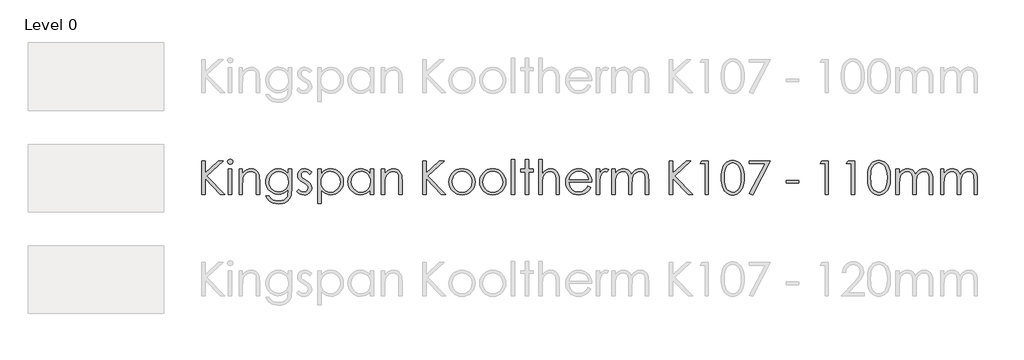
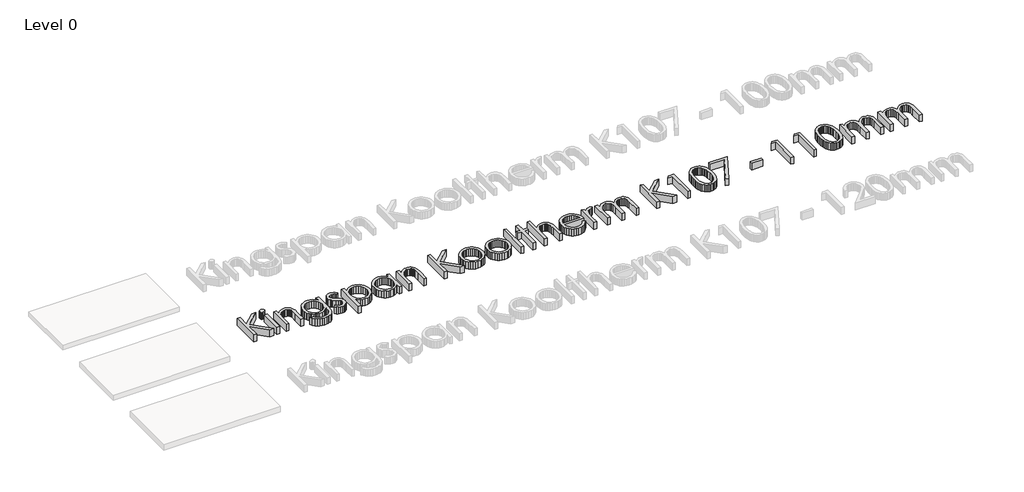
# One storey, part 4 of 13: 1 proxy.
"""IFC4 building model written with IfcOpenShell, lengths in millimetres."""

import ifcopenshell
import ifcopenshell.guid

model = None  # the IFC model being written
_history = None  # IfcOwnerHistory: only IFC2X3 demands one
_inside = {}  # id of a spatial element -> (the spatial element, [elements in it])
_under = {}  # id of a project, library or spatial element -> (it, [spatial elements below it])
_declared = {}  # id of a project -> (the project, [libraries it declares])
_typed = {}  # id of a type object -> (the type object, [elements of that type])
_made_of = {}  # id of a material, layer set ... -> (it, [elements and type objects made of it])


def new_model(schema):
    """Start an empty IFC model of exactly this schema.

    Asked for "IFC4X3", IfcOpenShell would pick the latest addendum, in which some entities
    have other attributes; the version numbers below select the first issue.
    IFC2X3 requires an IfcOwnerHistory on every rooted entity: one is made here for all.
    """
    global model, _history
    if schema == "IFC4X3":
        model = ifcopenshell.file(schema_version=(4, 3, 0, 0))
    else:
        model = ifcopenshell.file(schema=schema)
    _inside.clear()
    _under.clear()
    _declared.clear()
    _typed.clear()
    _made_of.clear()
    _history = None
    if model.schema == "IFC2X3":
        org = make("IfcOrganization", Name="unknown")
        user = make(
            "IfcPersonAndOrganization",
            ThePerson=make("IfcPerson", FamilyName="unknown"),
            TheOrganization=org,
        )
        app = make(
            "IfcApplication",
            ApplicationDeveloper=org,
            Version="unknown",
            ApplicationFullName="unknown",
            ApplicationIdentifier="unknown",
        )
        _history = make(
            "IfcOwnerHistory",
            OwningUser=user,
            OwningApplication=app,
            ChangeAction="ADDED",
            CreationDate=0,
        )
    return model


def make(cls, **values):
    """One entity of the class cls with the attributes given. An attribute that is None is left unset."""
    return model.create_entity(
        cls, **{name: value for name, value in values.items() if value is not None}
    )


def rooted(cls, **values):
    """An entity with a GlobalId (a new one), such as an element, a storey or a relation."""
    return make(cls, GlobalId=ifcopenshell.guid.new(), OwnerHistory=_history, **values)


def si_unit(unit_type, name, prefix=None):
    """IfcSIUnit, for example si_unit("LENGTHUNIT", "METRE", prefix="MILLI")."""
    return make("IfcSIUnit", UnitType=unit_type, Prefix=prefix, Name=name)


def assignment(units):
    """IfcUnitAssignment: the units of a project."""
    return None if units is None else make("IfcUnitAssignment", Units=units)


def point(xyz):
    """IfcCartesianPoint."""
    return None if xyz is None else make("IfcCartesianPoint", Coordinates=xyz)


def direction(xyz):
    """IfcDirection."""
    return None if xyz is None else make("IfcDirection", DirectionRatios=xyz)


def frame(location, z_axis=None, x_axis=None):
    """IfcAxis2Placement3D, a coordinate frame: its origin and axes. An axis left out is left unset."""
    return make(
        "IfcAxis2Placement3D",
        Location=point(location),
        Axis=direction(z_axis),
        RefDirection=direction(x_axis),
    )


def origin():
    """The frame at (0, 0, 0) with its axes left unset."""
    return frame((0.0, 0.0, 0.0))


def origin_with_axes():
    """The frame at (0, 0, 0) with the z axis (0, 0, 1) and the x axis (1, 0, 0) written out."""
    return frame((0.0, 0.0, 0.0), z_axis=(0.0, 0.0, 1.0), x_axis=(1.0, 0.0, 0.0))


def place(relative_to, where):
    """IfcLocalPlacement: puts the frame where relative to a parent placement (None: the world)."""
    return make(
        "IfcLocalPlacement", PlacementRelTo=relative_to, RelativePlacement=where
    )


def context(
    kind, dimensions, precision=None, world=None, true_north=None, identifier=None
):
    """IfcGeometricRepresentationContext, for example the 3D "Model" context."""
    return make(
        "IfcGeometricRepresentationContext",
        ContextIdentifier=identifier,
        ContextType=kind,
        CoordinateSpaceDimension=dimensions,
        Precision=precision,
        WorldCoordinateSystem=world,
        TrueNorth=true_north,
    )


def project(units=None, contexts=None):
    """IfcProject with its units and contexts."""
    return rooted(
        "IfcProject",
        Name="project",
        RepresentationContexts=contexts,
        UnitsInContext=assignment(units),
    )


def spatial(cls, under=None, at=None, **own):
    """A site, building, storey or space (cls), placed at a placement, below another one or the project."""
    s = rooted(cls, ObjectPlacement=at, **own)
    if under is not None:
        _under.setdefault(under.id(), (under, []))[1].append(s)
    return s


def polyline(points):
    """IfcPolyline through the points."""
    return make("IfcPolyline", Points=[point(p) for p in points])


def outline(outer, holes=None, kind="AREA"):
    """IfcArbitraryClosedProfileDef: a profile drawn as a closed curve; with holes, ...WithVoids."""
    if holes is None:
        return make("IfcArbitraryClosedProfileDef", ProfileType=kind, OuterCurve=outer)
    return make(
        "IfcArbitraryProfileDefWithVoids",
        ProfileType=kind,
        OuterCurve=outer,
        InnerCurves=holes,
    )


def extrude(swept, where, along, depth):
    """IfcExtrudedAreaSolid: the profile swept, set in the frame where, extruded along a direction by depth."""
    return make(
        "IfcExtrudedAreaSolid",
        SweptArea=swept,
        Position=where,
        ExtrudedDirection=direction(along),
        Depth=depth,
    )


def shape(context_of_items, identifier, shape_type, items):
    """IfcShapeRepresentation: the items that make up one representation, for example the "Body"."""
    return make(
        "IfcShapeRepresentation",
        ContextOfItems=context_of_items,
        RepresentationIdentifier=identifier,
        RepresentationType=shape_type,
        Items=items,
    )


def made_of(thing, what):
    """Note that an element or type object is made of a material, layer set ...; save() writes the relation."""
    if what is not None:
        _made_of.setdefault(what.id(), (what, []))[1].append(thing)
    return thing


def element(
    cls,
    number,
    at=None,
    inside=None,
    cuts=None,
    type_object=None,
    material=None,
    context=None,
    identifier="Body",
    shape_type=None,
    held_by="IfcProductDefinitionShape",
    body=None,
    shapes=None,
    **own,
):
    """One element of the class cls, such as IfcWall. Its Tag is "e" and its number.

    at: its placement. inside: the storey or other place that contains it. cuts: it is an
    opening in that element (IfcRelVoidsElement). A single representation is given by context,
    identifier, shape_type and body (its items); several are given by shapes. held_by: the class
    of the entity that holds the representations. save() writes the other relations.
    """
    e = rooted(cls, Tag="e%d" % number, ObjectPlacement=at, **own)
    if body is not None:
        shapes = [shape(context, identifier, shape_type, body)]
    if shapes is not None:
        e.Representation = make(held_by, Representations=shapes)
    if inside is not None:
        _inside.setdefault(inside.id(), (inside, []))[1].append(e)
    if cuts is not None:
        rooted(
            "IfcRelVoidsElement", RelatingBuildingElement=cuts, RelatedOpeningElement=e
        )
    if type_object is not None:
        _typed.setdefault(type_object.id(), (type_object, []))[1].append(e)
    return made_of(e, material)


def aggregate(whole, parts):
    """IfcRelAggregates: a whole, such as a stair, and the parts it consists of."""
    return rooted("IfcRelAggregates", RelatingObject=whole, RelatedObjects=parts)


def save(model, path):
    """Write the relations noted so far, then the file.

    IfcRelAggregates (storeys below a building ...), IfcRelContainedInSpatialStructure (elements
    in a storey), IfcRelDefinesByType, IfcRelAssociatesMaterial and IfcRelDeclares: one each for
    every whole, place, type object, material and project.
    """
    for whole, parts in _under.values():
        aggregate(whole, parts)
    for where, things in _inside.values():
        rooted(
            "IfcRelContainedInSpatialStructure",
            RelatedElements=things,
            RelatingStructure=where,
        )
    for kind, things in _typed.values():
        rooted("IfcRelDefinesByType", RelatedObjects=things, RelatingType=kind)
    for what, things in _made_of.values():
        rooted("IfcRelAssociatesMaterial", RelatedObjects=things, RelatingMaterial=what)
    for by, libraries in _declared.values():
        rooted("IfcRelDeclares", RelatingContext=by, RelatedDefinitions=libraries)
    model.write(path)


model = new_model("IFC4")

# Units and contexts
model_context = context("Model", 3, world=origin())
ifc_project = project(units=[si_unit("LENGTHUNIT", "METRE", prefix="MILLI")], contexts=[model_context])

# Site, building, storey
site = spatial("IfcSite", under=ifc_project)
building = spatial("IfcBuilding", under=site)
storey = spatial("IfcBuildingStorey", under=building, Name="Level 0", Elevation=0.0)

# Proxy
placement = place(None, origin())
element("IfcBuildingElementProxy", 1, Name="600mm KI_CenturyGothic", ObjectType="600mm KI_CenturyGothic", at=placement, inside=storey, context=model_context, shape_type="SweptSolid", body=[
    extrude(outline(polyline([(-3852.2663848, -10299.1034017), (-3792.944575, -10299.1034017), (-3792.944575, -10518.316027), (-3555.1938841, -10299.1034017), (-3471.6181051, -10299.1034017), (-3760.9664119, -10566.0515459), (-3441.9572002, -10892.3214999), (-3520.8984627, -10892.3214999), (-3792.944575, -10614.0960325), (-3792.944575, -10892.3214999), (-3852.2663848, -10892.3214999), (-3852.2663848, -10299.1034017)])), origin_with_axes(), (0.0, 0.0, 1.0), 150.0),
    extrude(outline(polyline([(-3348.1854852, -10269.4424967), (-3329.145347, -10272.7252792), (-3313.1176445, -10282.5736265), (-3302.226531, -10297.0178693), (-3298.5961598, -10314.088338), (-3302.226531, -10330.9270809), (-3313.1176445, -10345.2940817), (-3329.145347, -10355.142429), (-3348.1854852, -10358.4252115), (-3366.9938975, -10355.142429), (-3382.9443581, -10345.2940817), (-3393.8354717, -10330.9270809), (-3397.4658428, -10314.088338), (-3393.8354717, -10297.0178693), (-3382.9443581, -10282.5736265), (-3366.9938975, -10272.7252792), (-3348.1854852, -10269.4424967)])), origin_with_axes(), (0.0, 0.0, 1.0), 150.0),
    extrude(outline(polyline([(-3377.6919062, -10447.4079262), (-3318.3700964, -10447.4079262), (-3318.3700964, -10892.3214999), (-3377.6919062, -10892.3214999), (-3377.6919062, -10447.4079262)])), origin_with_axes(), (0.0, 0.0, 1.0), 150.0),
    extrude(outline(polyline([(-3189.8395084, -10447.4079262), (-3130.5176986, -10447.4079262), (-3130.5176986, -10526.5036726), (-3096.9946967, -10486.9944204), (-3060.0730495, -10459.303185), (-3019.7141359, -10442.9665147), (-2975.879335, -10437.5209579), (-2953.4357238, -10439.0995901), (-2932.2955704, -10443.8354865), (-2912.4588747, -10451.7286472), (-2893.9256368, -10462.7790723), (-2877.212412, -10476.5039994), (-2862.835756, -10492.4206667), (-2841.0921499, -10530.8292213), (-2833.6238199, -10555.2087086), (-2828.2892984, -10585.5551357), (-2824.0216812, -10664.1488095), (-2824.0216812, -10892.3214999), (-2883.343491, -10892.3214999), (-2883.343491, -10679.1337458), (-2883.343491, -10576.092998), (-2884.7290183, -10555.2956057), (-2889.8125035, -10537.2403023), (-2898.2849788, -10521.9270877), (-2910.1464442, -10509.355962), (-2924.7403432, -10499.5558909), (-2941.4101193, -10492.5558401), (-2980.977303, -10486.9557994), (-3005.3471351, -10489.1137461), (-3028.4038541, -10495.5875862), (-3050.1474602, -10506.3773197), (-3070.5779533, -10521.4829466), (-3088.6622225, -10539.7651482), (-3103.3671568, -10560.084606), (-3114.6927562, -10582.44132), (-3122.6390208, -10606.8352901), (-3128.5480292, -10653.9142525), (-3130.5176986, -10728.4141035), (-3130.5176986, -10892.3214999), (-3189.8395084, -10892.3214999), (-3189.8395084, -10447.4079262)])), origin_with_axes(), (0.0, 0.0, 1.0), 150.0),
    extrude(outline(polyline([(-2319.7862977, -10447.4079262), (-2260.4644879, -10447.4079262), (-2260.4644879, -10798.395301), (-2264.5196897, -10878.6496765), (-2269.588692, -10909.4499001), (-2276.6852953, -10934.0321474), (-2289.9371156, -10962.6454585), (-2307.2924139, -10987.7732271), (-2328.7511904, -11009.4154531), (-2354.3134448, -11027.5721366), (-2383.3226209, -11041.9343098), (-2415.122162, -11052.1930049), (-2449.7120682, -11058.348222), (-2487.0923395, -11060.3999611), (-2541.0458345, -11056.3833802), (-2589.206184, -11044.3336376), (-2630.260275, -11025.5059147), (-2662.8949946, -11001.1553932), (-2690.2000204, -10967.8061856), (-2715.2650299, -10921.9824048), (-2655.94322, -10921.9824048), (-2642.4355358, -10943.151524), (-2627.0933555, -10961.3951046), (-2609.9166791, -10976.7131468), (-2590.9055067, -10989.1056506), (-2569.7894914, -10998.6691682), (-2546.2982864, -11005.5002523), (-2492.1903075, -11010.9651195), (-2438.5071593, -11005.6354257), (-2415.083541, -10998.9733084), (-2393.93856, -10989.6463441), (-2359.6624492, -10965.6047903), (-2336.8567664, -10936.1176798), (-2329.3884364, -10917.4782342), (-2324.0539149, -10893.7697863), (-2319.7862977, -10831.1458835), (-2319.7862977, -10808.4367532), (-2354.757586, -10844.2190818), (-2396.6420279, -10870.6165148), (-2443.392712, -10886.8952536), (-2492.9627269, -10892.3214999), (-2522.4063889, -10890.4242447), (-2550.9521133, -10884.7324793), (-2578.5999001, -10875.2462036), (-2605.3497494, -10861.9654175), (-2630.1540674, -10845.4742634), (-2651.9652601, -10826.3568832), (-2670.7833277, -10804.6132772), (-2686.6082702, -10780.2434451), (-2699.1456025, -10753.9280817), (-2708.1008399, -10726.3478816), (-2713.4739824, -10697.5028447), (-2715.2650299, -10667.392971), (-2713.3967404, -10637.1044753), (-2707.7918722, -10607.8780563), (-2698.4504251, -10579.713714), (-2685.3723991, -10552.6114483), (-2668.9971079, -10527.4257483), (-2649.7638648, -10505.0111029), (-2627.67267, -10485.367512), (-2602.7235235, -10468.4949758), (-2575.9833294, -10454.943843), (-2548.5189922, -10445.2644624), (-2520.3305117, -10439.456834), (-2491.4178881, -10437.5209579), (-2444.5320306, -10442.4644421), (-2400.8903346, -10457.2948945), (-2359.6045177, -10483.8661218), (-2319.7862977, -10524.0319306), (-2319.7862977, -10447.4079262)]), holes=[polyline([(-2484.1571458, -10486.9557994), (-2529.0154023, -10492.9806707), (-2570.5908765, -10511.0552847), (-2606.2187212, -10539.7699758), (-2633.2340897, -10577.7150788), (-2650.2659375, -10621.9940208), (-2655.94322, -10669.7102292), (-2653.0080263, -10705.6229036), (-2644.2024452, -10738.2817613), (-2629.5264766, -10767.6868023), (-2608.9801206, -10793.8380266), (-2583.7606272, -10815.296803), (-2555.0652466, -10830.6245004), (-2522.8939786, -10839.8211189), (-2487.2468234, -10842.8866584), (-2451.3244937, -10839.845257), (-2419.1001219, -10830.7210528), (-2390.573708, -10815.5140459), (-2365.7452519, -10794.2242363), (-2345.6382095, -10767.9812872), (-2331.2760363, -10737.9148621), (-2322.6587323, -10704.024961), (-2319.7862977, -10666.3115838), (-2325.0773706, -10617.6105407), (-2340.9505892, -10574.3936754), (-2366.4983608, -10538.1672056), (-2400.8130926, -10510.4373492), (-2440.9982119, -10492.8261869), (-2484.1571458, -10486.9557994)])]), origin_with_axes(), (0.0, 0.0, 1.0), 150.0),
    extrude(outline(polyline([(-1904.5336289, -10498.6965743), (-1940.9918246, -10536.390641), (-1962.9575012, -10514.7628978), (-1984.6721416, -10499.3145098), (-2006.1357456, -10490.045477), (-2027.3483133, -10486.9557994), (-2052.181597, -10491.6289368), (-2073.2300256, -10505.6483489), (-2087.5970264, -10525.8857371), (-2092.3860267, -10549.212803), (-2088.4466878, -10570.7633042), (-2076.628671, -10591.2324183), (-2052.0657341, -10613.400855), (-2010.2006027, -10639.122421), (-1958.3326401, -10671.9888664), (-1939.8428507, -10687.8138088), (-1926.315856, -10703.2332311), (-1909.9791857, -10735.9065716), (-1904.5336289, -10772.4420092), (-1906.9474396, -10798.5884059), (-1914.1888714, -10822.6492701), (-1926.2579245, -10844.624602), (-1943.1545989, -10864.5144015), (-1963.6719892, -10881.0055557), (-1986.6031901, -10892.7849515), (-2011.9482016, -10899.852589), (-2039.7070237, -10902.2084682), (-2077.4397114, -10898.3270607), (-2113.3958344, -10886.6828383), (-2145.4512394, -10868.2027042), (-2171.4817731, -10843.8135617), (-2135.7959969, -10803.3387852), (-2114.0041146, -10824.9665283), (-2091.5749863, -10840.4149163), (-2068.5086121, -10849.6839491), (-2044.8049918, -10852.7736267), (-2013.637869, -10847.1349651), (-1987.4914724, -10830.2189802), (-1969.7644472, -10805.6560434), (-1963.8554388, -10777.0765256), (-1967.7561567, -10753.2860081), (-1979.4583106, -10732.2762005), (-2005.0253927, -10710.5712154), (-2050.2119275, -10683.7682622), (-2099.762632, -10653.1032121), (-2117.441381, -10637.9444814), (-2130.3890611, -10622.9016136), (-2146.3781427, -10590.7689666), (-2151.7078365, -10554.310771), (-2149.5305794, -10530.2643896), (-2142.9988078, -10508.3325063), (-2132.1125219, -10488.5151211), (-2116.8717217, -10470.812234), (-2098.309518, -10456.2473007), (-2077.4590218, -10445.8437769), (-2054.3202332, -10439.6016627), (-2028.8931521, -10437.5209579), (-1997.9481, -10441.3444339), (-1966.9064954, -10452.814862), (-1935.7683384, -10471.9322421), (-1904.5336289, -10498.6965743)])), origin_with_axes(), (0.0, 0.0, 1.0), 150.0),
    extrude(outline(polyline([(-1795.7769776, -10447.4079262), (-1736.4551678, -10447.4079262), (-1736.4551678, -10528.5119631), (-1700.9238754, -10488.2689124), (-1660.4490989, -10459.9211205), (-1614.9922173, -10443.1209986), (-1564.5146096, -10437.5209579), (-1520.0618732, -10441.7596094), (-1478.9305402, -10454.4755637), (-1441.1206107, -10475.668821), (-1406.6320845, -10505.3393811), (-1377.9077381, -10540.9768811), (-1357.3903478, -10580.070958), (-1345.0799137, -10622.6216116), (-1340.9764356, -10668.628842), (-1345.0412927, -10715.5291824), (-1357.235864, -10758.7508754), (-1377.5601494, -10798.293921), (-1406.014149, -10834.1583192), (-1440.2130179, -10863.9302594), (-1477.7719111, -10885.1959309), (-1518.6908288, -10897.9553339), (-1562.9697708, -10902.2084682), (-1612.6170277, -10896.743601), (-1658.0545988, -10880.3489992), (-1699.3211052, -10853.1019049), (-1736.4551678, -10815.07956), (-1736.4551678, -11050.5129928), (-1795.7769776, -11050.5129928), (-1795.7769776, -10447.4079262)]), holes=[polyline([(-1568.5311905, -10486.9557994), (-1602.5852307, -10490.2530647), (-1633.8392507, -10500.1448607), (-1662.2932503, -10516.6311872), (-1687.9472295, -10539.7120444), (-1709.1694525, -10567.6977647), (-1724.3281832, -10598.8986808), (-1733.4234216, -10633.3147926), (-1736.4551678, -10670.9461002), (-1731.048232, -10719.8016272), (-1714.8274246, -10763.4819442), (-1688.5265441, -10800.3263495), (-1652.8793888, -10828.6741414), (-1611.4390881, -10846.7487554), (-1567.7587711, -10852.7736267), (-1525.0632888, -10846.7101344), (-1485.0326535, -10828.5196576), (-1450.2544701, -10799.4187567), (-1423.3163435, -10760.6239924), (-1406.05277, -10715.9588407), (-1400.2982454, -10669.2467775), (-1405.9948385, -10622.3029886), (-1423.0846177, -10577.8695627), (-1449.8103289, -10539.5189395), (-1484.414718, -10510.8235589), (-1524.7157001, -10492.9227393), (-1568.5311905, -10486.9557994)])]), origin_with_axes(), (0.0, 0.0, 1.0), 150.0),
    extrude(outline(polyline([(-807.0801472, -10447.4079262), (-807.0801472, -10892.3214999), (-866.401957, -10892.3214999), (-866.401957, -10816.4699149), (-903.4780882, -10854.3184655), (-944.8797679, -10881.0441767), (-990.4525125, -10896.9173953), (-1040.0418379, -10902.2084682), (-1084.3159523, -10897.9553339), (-1125.2203871, -10885.1959309), (-1162.7551422, -10863.9302594), (-1196.9202178, -10834.1583192), (-1225.340424, -10798.293921), (-1245.6405713, -10758.7508754), (-1257.8206597, -10715.5291824), (-1261.8806892, -10668.628842), (-1257.7820388, -10622.6216116), (-1245.4860875, -10580.070958), (-1224.9928353, -10540.9768811), (-1196.3022822, -10505.3393811), (-1161.8475494, -10475.668821), (-1124.061758, -10454.4755637), (-1082.9449079, -10441.7596094), (-1038.4969991, -10437.5209579), (-987.7490446, -10443.1209986), (-942.0990581, -10459.9211205), (-921.2051134, -10472.6081091), (-901.6242816, -10488.2689124), (-866.401957, -10528.5119631), (-866.401957, -10447.4079262), (-807.0801472, -10447.4079262)]), holes=[polyline([(-1034.3259343, -10486.9557994), (-1078.1414247, -10492.9227393), (-1118.4424068, -10510.8235589), (-1153.0467959, -10539.5189395), (-1179.7725071, -10577.8695627), (-1196.8622863, -10622.3029886), (-1202.5588794, -10669.2467775), (-1196.8043548, -10715.9588407), (-1179.5407813, -10760.6239924), (-1152.6026548, -10799.4187567), (-1117.8244713, -10828.5196576), (-1077.6779731, -10846.7101344), (-1034.6349021, -10852.7736267), (-991.0125165, -10846.7487554), (-949.7460102, -10828.6741414), (-914.2726493, -10800.3263495), (-888.0297002, -10763.4819442), (-871.8088928, -10719.8016272), (-866.401957, -10670.9461002), (-869.4337032, -10633.3147926), (-878.5289416, -10598.8986808), (-893.6876723, -10567.6977647), (-914.9098953, -10539.7120444), (-940.5638746, -10516.6311872), (-969.0178742, -10500.1448607), (-1000.2718941, -10490.2530647), (-1034.3259343, -10486.9557994)])]), origin_with_axes(), (0.0, 0.0, 1.0), 150.0),
    extrude(outline(polyline([(-668.662591, -10447.4079262), (-609.3407811, -10447.4079262), (-609.3407811, -10526.5036726), (-575.8177792, -10486.9944204), (-538.896132, -10459.303185), (-498.5372184, -10442.9665147), (-454.7024175, -10437.5209579), (-432.2588064, -10439.0995901), (-411.1186529, -10443.8354865), (-391.2819572, -10451.7286472), (-372.7487193, -10462.7790723), (-356.0354946, -10476.5039994), (-341.6588385, -10492.4206667), (-319.9152324, -10530.8292213), (-312.4469024, -10555.2087086), (-307.1123809, -10585.5551357), (-302.8447637, -10664.1488095), (-302.8447637, -10892.3214999), (-362.1665735, -10892.3214999), (-362.1665735, -10679.1337458), (-362.1665735, -10576.092998), (-363.5521008, -10555.2956057), (-368.635586, -10537.2403023), (-377.1080613, -10521.9270877), (-388.9695267, -10509.355962), (-403.5634257, -10499.5558909), (-420.2332018, -10492.5558401), (-459.8003855, -10486.9557994), (-484.1702176, -10489.1137461), (-507.2269366, -10495.5875862), (-528.9705427, -10506.3773197), (-549.4010358, -10521.4829466), (-567.485305, -10539.7651482), (-582.1902393, -10560.084606), (-593.5158387, -10582.44132), (-601.4621033, -10606.8352901), (-607.3711117, -10653.9142525), (-609.3407811, -10728.4141035), (-609.3407811, -10892.3214999), (-668.662591, -10892.3214999), (-668.662591, -10447.4079262)])), origin_with_axes(), (0.0, 0.0, 1.0), 150.0),
    extrude(outline(polyline([(62.9730635, -10299.1034017), (122.2948734, -10299.1034017), (122.2948734, -10518.316027), (360.0455643, -10299.1034017), (443.6213432, -10299.1034017), (154.2730365, -10566.0515459), (473.2822481, -10892.3214999), (394.3409856, -10892.3214999), (122.2948734, -10614.0960325), (122.2948734, -10892.3214999), (62.9730635, -10892.3214999), (62.9730635, -10299.1034017)])), origin_with_axes(), (0.0, 0.0, 1.0), 150.0),
    extrude(outline(polyline([(760.1588128, -10437.5209579), (809.4681362, -10442.1458191), (854.3553585, -10456.0204025), (894.8204798, -10479.1447083), (930.8635, -10511.5187363), (957.7630055, -10546.7507161), (976.9769381, -10585.091684), (988.5052976, -10626.54164), (992.3480841, -10671.1005841), (988.283227, -10715.9153921), (976.0886558, -10757.8239721), (955.7643703, -10796.8263241), (927.3103707, -10832.9224481), (892.4742558, -10863.2350819), (853.0036246, -10884.8869632), (808.8984769, -10897.8780919), (760.1588128, -10902.2084682), (711.2839754, -10897.8780919), (667.0822753, -10884.8869632), (627.5537126, -10863.2350819), (592.6982872, -10832.9224481), (564.2442876, -10796.8263241), (543.9200022, -10757.8239721), (531.7254309, -10715.9153921), (527.6605738, -10671.1005841), (531.5033603, -10626.7347449), (543.0317198, -10585.4006518), (562.2456524, -10547.0983049), (589.145158, -10511.8277041), (625.2074886, -10479.3185026), (665.7305413, -10456.0976445), (710.7143161, -10442.1651295), (760.1588128, -10437.5209579)]), holes=[polyline([(760.004329, -10486.9557994), (725.7282181, -10490.3303067), (693.9624704, -10500.4538284), (664.7070856, -10517.3263647), (637.962064, -10540.9479154), (615.6584538, -10569.3584664), (599.7273037, -10600.5980035), (590.1686137, -10634.6665266), (586.9823836, -10671.5640357), (592.7948396, -10719.2995546), (610.2322075, -10763.6364281), (637.5758543, -10801.4270471), (673.1071466, -10829.5238028), (714.6439998, -10846.9611707), (760.004329, -10852.7736267), (805.3646581, -10846.9611707), (846.9015113, -10829.5238028), (882.4328037, -10801.4270471), (909.7764504, -10763.6364281), (927.2138183, -10719.2995546), (933.0262743, -10671.5640357), (929.8255614, -10634.6665266), (920.2234227, -10600.5980035), (904.2198583, -10569.3584664), (881.8148681, -10540.9479154), (854.9974321, -10517.3263647), (825.7565303, -10500.4538284), (794.0921625, -10490.3303067), (760.004329, -10486.9557994)])]), origin_with_axes(), (0.0, 0.0, 1.0), 150.0),
    extrude(outline(polyline([(1303.9420695, -10437.5209579), (1353.2513929, -10442.1458191), (1398.1386152, -10456.0204025), (1438.6037365, -10479.1447083), (1474.6467567, -10511.5187363), (1501.5462622, -10546.7507161), (1520.7601948, -10585.091684), (1532.2885543, -10626.54164), (1536.1313408, -10671.1005841), (1532.0664837, -10715.9153921), (1519.8719125, -10757.8239721), (1499.547627, -10796.8263241), (1471.0936274, -10832.9224481), (1436.2575126, -10863.2350819), (1396.7868813, -10884.8869632), (1352.6817336, -10897.8780919), (1303.9420695, -10902.2084682), (1255.0672321, -10897.8780919), (1210.865532, -10884.8869632), (1171.3369693, -10863.2350819), (1136.4815439, -10832.9224481), (1108.0275443, -10796.8263241), (1087.7032589, -10757.8239721), (1075.5086876, -10715.9153921), (1071.4438305, -10671.1005841), (1075.286617, -10626.7347449), (1086.8149766, -10585.4006518), (1106.0289091, -10547.0983049), (1132.9284147, -10511.8277041), (1168.9907453, -10479.3185026), (1209.5137981, -10456.0976445), (1254.4975728, -10442.1651295), (1303.9420695, -10437.5209579)]), holes=[polyline([(1303.7875857, -10486.9557994), (1269.5114748, -10490.3303067), (1237.7457271, -10500.4538284), (1208.4903423, -10517.3263647), (1181.7453207, -10540.9479154), (1159.4417105, -10569.3584664), (1143.5105604, -10600.5980035), (1133.9518704, -10634.6665266), (1130.7656404, -10671.5640357), (1136.5780963, -10719.2995546), (1154.0154643, -10763.6364281), (1181.359111, -10801.4270471), (1216.8904033, -10829.5238028), (1258.4272565, -10846.9611707), (1303.7875857, -10852.7736267), (1349.1479149, -10846.9611707), (1390.684768, -10829.5238028), (1426.2160604, -10801.4270471), (1453.5597071, -10763.6364281), (1470.997075, -10719.2995546), (1476.809531, -10671.5640357), (1473.6088181, -10634.6665266), (1464.0066795, -10600.5980035), (1448.003115, -10569.3584664), (1425.5981249, -10540.9479154), (1398.7806889, -10517.3263647), (1369.539787, -10500.4538284), (1337.8754193, -10490.3303067), (1303.7875857, -10486.9557994)])]), origin_with_axes(), (0.0, 0.0, 1.0), 150.0),
    extrude(outline(polyline([(1635.0010238, -10279.3294651), (1694.3228337, -10279.3294651), (1694.3228337, -10892.3214999), (1635.0010238, -10892.3214999), (1635.0010238, -10279.3294651)])), origin_with_axes(), (0.0, 0.0, 1.0), 150.0),
    extrude(outline(polyline([(1882.1752314, -10279.3294651), (1941.4970413, -10279.3294651), (1941.4970413, -10447.4079262), (2020.5927877, -10447.4079262), (2020.5927877, -10496.8427677), (1941.4970413, -10496.8427677), (1941.4970413, -10892.3214999), (1882.1752314, -10892.3214999), (1882.1752314, -10496.8427677), (1803.079485, -10496.8427677), (1803.079485, -10447.4079262), (1882.1752314, -10447.4079262), (1882.1752314, -10279.3294651)])), origin_with_axes(), (0.0, 0.0, 1.0), 150.0),
    extrude(outline(polyline([(2119.4624707, -10279.3294651), (2178.7842806, -10279.3294651), (2178.7842806, -10528.0485114), (2212.5583188, -10488.3461544), (2249.6151394, -10460.0756044), (2289.9161216, -10443.1596195), (2333.4226442, -10437.5209579), (2355.8662553, -10439.0995901), (2377.0064088, -10443.8354865), (2396.8431044, -10451.7286472), (2415.3763424, -10462.7790723), (2432.0895671, -10476.4895166), (2446.4662232, -10492.3627352), (2468.2098293, -10530.5974955), (2475.6781593, -10554.9045684), (2481.0126808, -10585.2654784), (2485.280298, -10664.1488095), (2485.280298, -10892.3214999), (2425.9584882, -10892.3214999), (2425.9584882, -10679.1337458), (2424.5681332, -10614.752589), (2420.3970685, -10576.092998), (2406.879729, -10537.2403023), (2397.1665551, -10521.9270877), (2385.4837117, -10509.355962), (2371.840854, -10499.5558909), (2356.2476374, -10492.5558401), (2319.2101273, -10486.9557994), (2296.3416854, -10489.1137461), (2274.6994594, -10495.5875862), (2254.2834492, -10506.3773197), (2235.0936547, -10521.4829466), (2218.1052556, -10539.7651482), (2204.2934312, -10560.084606), (2193.6581816, -10582.44132), (2186.1995068, -10606.8352901), (2180.6380871, -10653.6825267), (2178.7842806, -10728.4141035), (2178.7842806, -10892.3214999), (2119.4624707, -10892.3214999), (2119.4624707, -10279.3294651)])), origin_with_axes(), (0.0, 0.0, 1.0), 150.0),
    extrude(outline(polyline([(2991.0605203, -10744.0169753), (3038.950523, -10769.1978477), (3013.3255094, -10811.0822896), (2984.0315038, -10844.0452875), (2950.952643, -10869.1296074), (2913.9730643, -10887.3780157), (2872.4941426, -10898.5008551), (2825.9172528, -10902.2084682), (2774.4258447, -10897.7767119), (2728.8627554, -10884.481443), (2689.227985, -10862.3226615), (2655.5215335, -10831.3003674), (2628.6220279, -10794.6973431), (2609.4080954, -10755.7963712), (2597.8797358, -10714.5974515), (2594.0369493, -10671.1005841), (2597.3197318, -10630.2202874), (2607.1680791, -10591.618628), (2623.5819913, -10555.2956057), (2646.5614684, -10521.2512207), (2682.7493173, -10484.6192308), (2724.5758277, -10458.4535236), (2772.0409998, -10442.7540993), (2825.1448334, -10437.5209579), (2879.7935059, -10442.8892727), (2928.6490329, -10458.9942172), (2971.7114143, -10485.8357913), (3008.9806503, -10523.4139951), (3030.4539096, -10555.585263), (3045.9022976, -10591.541386), (3055.3258143, -10631.2823641), (3058.7244596, -10674.8081972), (2653.3587591, -10674.8081972), (2657.095338, -10712.0629503), (2666.6057518, -10745.8128504), (2681.8900007, -10776.0578975), (2702.9480845, -10802.7980916), (2728.3124066, -10824.6623882), (2756.5153699, -10840.2797429), (2787.5569744, -10849.6501557), (2821.4372203, -10852.7736267), (2854.9602222, -10849.761191), (2887.5563208, -10840.7238841), (2917.2944677, -10826.6851615), (2942.2436143, -10808.668479), (2965.725164, -10782.5027719), (2991.0605203, -10744.0169753)]), holes=[polyline([(2999.4026498, -10625.3733557), (2984.9777175, -10582.8516678), (2965.1844704, -10549.8307385), (2939.0766947, -10524.3022774), (2905.7081767, -10504.257994), (2867.7630738, -10491.2813481), (2827.9255433, -10486.9557994), (2795.503239, -10489.6689226), (2765.4368139, -10497.808292), (2737.726268, -10511.3739077), (2712.3716012, -10530.3657696), (2695.8321708, -10548.179692), (2681.4362043, -10569.9522638), (2669.1837016, -10595.683485), (2659.0746627, -10625.3733557), (2999.4026498, -10625.3733557)])]), origin_with_axes(), (0.0, 0.0, 1.0), 150.0),
    extrude(outline(polyline([(3137.820206, -10447.4079262), (3197.1420159, -10447.4079262), (3197.1420159, -10511.8277041), (3222.6897875, -10478.7874643), (3249.589293, -10455.6728138), (3277.7632906, -10442.0589219), (3307.1345382, -10437.5209579), (3330.4616041, -10441.305813), (3355.3335087, -10452.6603781), (3325.8270877, -10494.6799934), (3297.2475699, -10486.9557994), (3270.8308265, -10492.9034288), (3245.3409863, -10510.7463169), (3223.2884125, -10541.1023993), (3207.183468, -10584.5896114), (3199.6523789, -10642.7141712), (3197.1420159, -10740.1548783), (3197.1420159, -10892.3214999), (3137.820206, -10892.3214999), (3137.820206, -10447.4079262)])), origin_with_axes(), (0.0, 0.0, 1.0), 150.0),
    extrude(outline(polyline([(3414.6553185, -10447.4079262), (3473.9771284, -10447.4079262), (3473.9771284, -10523.5684789), (3503.5607913, -10487.0716623), (3533.9168737, -10461.9294109), (3577.3268439, -10443.6230712), (3622.8995884, -10437.5209579), (3653.7384329, -10440.668567), (3682.9165757, -10450.1113941), (3708.6767627, -10464.7873627), (3729.2617397, -10483.634396), (3746.0425511, -10509.0663047), (3760.3902414, -10543.4968994), (3775.16759, -10519.0981017), (3791.6925376, -10497.808292), (3809.965084, -10479.6274704), (3829.9852293, -10464.5556369), (3851.2798666, -10452.7279648), (3873.375889, -10444.2796277), (3896.2732965, -10439.2106253), (3919.9720892, -10437.5209579), (3962.3006723, -10443.3334139), (3981.4952943, -10450.5989839), (3999.3768034, -10460.7707818), (4015.4914031, -10473.53984), (4029.385297, -10488.5971907), (4050.5109676, -10525.5767694), (4057.8103309, -10548.9521114), (4063.0241619, -10577.5219739), (4067.1952266, -10650.2452603), (4067.1952266, -10892.3214999), (4007.8734168, -10892.3214999), (4007.8734168, -10646.6921311), (4005.4209852, -10585.5744462), (3998.0636904, -10547.1272706), (3984.7587663, -10522.6608861), (3964.4634466, -10503.4855746), (3938.3942919, -10491.0882432), (3907.7678627, -10486.9557994), (3888.1194443, -10488.5054659), (3869.3399976, -10493.1544651), (3834.3880198, -10511.7504621), (3805.6540182, -10540.6968791), (3785.8800816, -10577.9468046), (3779.1889985, -10602.1042213), (3774.4096535, -10633.1747916), (3770.5861775, -10716.0553931), (3770.5861775, -10892.3214999), (3711.2643677, -10892.3214999), (3711.2643677, -10661.9860352), (3708.850557, -10593.530366), (3701.6091252, -10551.2983353), (3688.3621325, -10525.0553863), (3667.9316394, -10504.5669617), (3641.6114484, -10491.35859), (3610.6953619, -10486.9557994), (3573.7544042, -10492.9999812), (3539.2465676, -10511.1325266), (3510.2808401, -10539.499629), (3489.9662099, -10576.2474819), (3477.9743988, -10628.0768236), (3473.9771284, -10701.6883923), (3473.9771284, -10892.3214999), (3414.6553185, -10892.3214999), (3414.6553185, -10447.4079262)])), origin_with_axes(), (0.0, 0.0, 1.0), 150.0),
    extrude(outline(polyline([(4433.0130538, -10299.1034017), (4492.3348637, -10299.1034017), (4492.3348637, -10518.316027), (4730.0855546, -10299.1034017), (4813.6613335, -10299.1034017), (4524.3130268, -10566.0515459), (4843.3222385, -10892.3214999), (4764.3809759, -10892.3214999), (4492.3348637, -10614.0960325), (4492.3348637, -10892.3214999), (4433.0130538, -10892.3214999), (4433.0130538, -10299.1034017)])), origin_with_axes(), (0.0, 0.0, 1.0), 150.0),
    extrude(outline(polyline([(5010.6282802, -10299.1034017), (5125.1008351, -10299.1034017), (5125.1008351, -10892.3214999), (5065.7790253, -10892.3214999), (5065.7790253, -10348.5382432), (4976.7963106, -10348.5382432), (5010.6282802, -10299.1034017)])), origin_with_axes(), (0.0, 0.0, 1.0), 150.0),
    extrude(outline(polyline([(5352.5011061, -10595.8669347), (5354.0797383, -10541.4355052), (5358.8156347, -10493.5406748), (5366.7087954, -10452.1824436), (5377.7592204, -10417.3608116), (5391.6869077, -10387.7192172), (5408.2118552, -10361.9010988), (5427.334063, -10339.9064564), (5449.053531, -10321.73529), (5472.747496, -10307.5082902), (5497.793195, -10297.3461475), (5524.190628, -10291.2488619), (5551.9397949, -10289.2164334), (5580.1427582, -10291.2633448), (5606.974677, -10297.404079), (5632.4355515, -10307.638636), (5656.5253815, -10321.9670159), (5678.7083011, -10340.3843909), (5698.4484443, -10362.8859335), (5715.7458112, -10389.4716437), (5730.6004018, -10420.1415214), (5742.5294539, -10455.6583309), (5751.0502054, -10496.7848363), (5756.1626563, -10543.5210375), (5757.8668066, -10595.8669347), (5756.1867944, -10648.0535203), (5751.1467578, -10694.6207548), (5742.7466968, -10735.5686382), (5730.9866115, -10770.8971704), (5716.2768496, -10801.4222195), (5699.0277589, -10827.9596535), (5679.2393394, -10850.5094723), (5656.9115912, -10869.071676), (5632.6527944, -10883.5690226), (5607.0712295, -10893.9242701), (5580.1668963, -10900.1374187), (5551.9397949, -10902.2084682), (5524.2147661, -10900.2001778), (5497.8897474, -10894.1753064), (5472.964739, -10884.1338543), (5449.4397407, -10870.0758212), (5427.8651013, -10852.0398282), (5408.7911698, -10830.0644964), (5392.2179461, -10804.1498255), (5378.1454301, -10774.2958158), (5366.9260384, -10739.2762513), (5358.9121871, -10697.8649163), (5354.1038764, -10650.0618107), (5352.5011061, -10595.8669347)]), holes=[polyline([(5411.8229159, -10595.7124508), (5416.206396, -10684.038609), (5421.6857461, -10719.0195525), (5429.3568363, -10747.8790723), (5439.1713903, -10772.1185586), (5451.0811319, -10793.2394015), (5465.0860611, -10811.2416011), (5481.1861779, -10826.1251574), (5516.4857445, -10846.1115094), (5534.8886366, -10851.1080973), (5553.7936014, -10852.7736267), (5572.7854634, -10851.1418907), (5591.1400794, -10846.2466828), (5625.9375733, -10826.665851), (5641.694929, -10811.9898824), (5655.4439943, -10794.0697524), (5667.1847692, -10772.9054608), (5676.9172536, -10748.4970078), (5686.3793912, -10715.1381451), (5693.138061, -10678.5544313), (5698.5449967, -10595.7124508), (5693.7173755, -10514.1063413), (5687.682849, -10479.4150551), (5679.2345118, -10448.7982811), (5668.652366, -10422.135329), (5656.2164137, -10399.3055082), (5641.9266548, -10380.3088186), (5625.7830894, -10365.1452603), (5590.7152487, -10345.2747712), (5572.4861509, -10340.307149), (5553.7936014, -10338.6512749), (5534.7776014, -10340.307149), (5516.3505711, -10345.2747712), (5481.2634199, -10365.1452603), (5465.3177869, -10379.9564022), (5451.3900996, -10397.8958428), (5439.480358, -10418.9635819), (5429.5885621, -10443.1596195), (5421.8160919, -10472.0143117), (5416.2643275, -10507.0580143), (5411.8229159, -10595.7124508)])]), origin_with_axes(), (0.0, 0.0, 1.0), 150.0),
    extrude(outline(polyline([(5846.8495213, -10299.1034017), (6222.5543169, -10299.1034017), (5906.1713311, -10902.2084682), (5852.2564571, -10879.8083056), (6130.9453762, -10348.5382432), (5846.8495213, -10348.5382432), (5846.8495213, -10299.1034017)])), origin_with_axes(), (0.0, 0.0, 1.0), 150.0),
    extrude(outline(polyline([(6499.3894294, -10645.1472923), (6726.7897004, -10645.1472923), (6726.7897004, -10694.5821338), (6499.3894294, -10694.5821338), (6499.3894294, -10645.1472923)])), origin_with_axes(), (0.0, 0.0, 1.0), 150.0),
    extrude(outline(polyline([(7136.3264656, -10299.1034017), (7250.7990205, -10299.1034017), (7250.7990205, -10892.3214999), (7191.4772106, -10892.3214999), (7191.4772106, -10348.5382432), (7102.4944959, -10348.5382432), (7136.3264656, -10299.1034017)])), origin_with_axes(), (0.0, 0.0, 1.0), 150.0),
    extrude(outline(polyline([(7601.0139758, -10299.1034017), (7715.4865307, -10299.1034017), (7715.4865307, -10892.3214999), (7656.1647209, -10892.3214999), (7656.1647209, -10348.5382432), (7567.1820062, -10348.5382432), (7601.0139758, -10299.1034017)])), origin_with_axes(), (0.0, 0.0, 1.0), 150.0),
    extrude(outline(polyline([(7942.8868017, -10595.8669347), (7944.4654339, -10541.4355052), (7949.2013303, -10493.5406748), (7957.094491, -10452.1824436), (7968.1449161, -10417.3608116), (7982.0726034, -10387.7192172), (7998.5975509, -10361.9010988), (8017.7197586, -10339.9064564), (8039.4392266, -10321.73529), (8063.1331916, -10307.5082902), (8088.1788906, -10297.3461475), (8114.5763236, -10291.2488619), (8142.3254905, -10289.2164334), (8170.5284538, -10291.2633448), (8197.3603726, -10297.404079), (8222.8212471, -10307.638636), (8246.9110771, -10321.9670159), (8269.0939967, -10340.3843909), (8288.8341399, -10362.8859335), (8306.1315069, -10389.4716437), (8320.9860974, -10420.1415214), (8332.9151495, -10455.6583309), (8341.435901, -10496.7848363), (8346.5483519, -10543.5210375), (8348.2525022, -10595.8669347), (8346.57249, -10648.0535203), (8341.5324534, -10694.6207548), (8333.1323925, -10735.5686382), (8321.3723071, -10770.8971704), (8306.6625452, -10801.4222195), (8289.4134545, -10827.9596535), (8269.625035, -10850.5094723), (8247.2972868, -10869.071676), (8223.03849, -10883.5690226), (8197.4569251, -10893.9242701), (8170.5525919, -10900.1374187), (8142.3254905, -10902.2084682), (8114.6004617, -10900.2001778), (8088.2754431, -10894.1753064), (8063.3504346, -10884.1338543), (8039.8254363, -10870.0758212), (8018.2507969, -10852.0398282), (7999.1768654, -10830.0644964), (7982.6036417, -10804.1498255), (7968.5311258, -10774.2958158), (7957.311734, -10739.2762513), (7949.2978827, -10697.8649163), (7944.489572, -10650.0618107), (7942.8868017, -10595.8669347)]), holes=[polyline([(8002.2086116, -10595.7124508), (8006.5920916, -10684.038609), (8012.0714418, -10719.0195525), (8019.7425319, -10747.8790723), (8029.5570859, -10772.1185586), (8041.4668275, -10793.2394015), (8055.4717567, -10811.2416011), (8071.5718736, -10826.1251574), (8106.8714401, -10846.1115094), (8125.2743323, -10851.1080973), (8144.179297, -10852.7736267), (8163.171159, -10851.1418907), (8181.525775, -10846.2466828), (8216.3232689, -10826.665851), (8232.0806246, -10811.9898824), (8245.8296899, -10794.0697524), (8257.5704648, -10772.9054608), (8267.3029492, -10748.4970078), (8276.7650868, -10715.1381451), (8283.5237566, -10678.5544313), (8288.9306924, -10595.7124508), (8284.1030711, -10514.1063413), (8278.0685446, -10479.4150551), (8269.6202074, -10448.7982811), (8259.0380616, -10422.135329), (8246.6021093, -10399.3055082), (8232.3123504, -10380.3088186), (8216.168785, -10365.1452603), (8181.1009443, -10345.2747712), (8162.8718465, -10340.307149), (8144.179297, -10338.6512749), (8125.163297, -10340.307149), (8106.7362667, -10345.2747712), (8071.6491155, -10365.1452603), (8055.7034825, -10379.9564022), (8041.7757953, -10397.8958428), (8029.8660536, -10418.9635819), (8019.9742577, -10443.1596195), (8012.2017875, -10472.0143117), (8006.6500231, -10507.0580143), (8002.2086116, -10595.7124508)])]), origin_with_axes(), (0.0, 0.0, 1.0), 150.0),
    extrude(outline(polyline([(8447.1221852, -10447.4079262), (8506.4439951, -10447.4079262), (8506.4439951, -10523.5684789), (8536.027658, -10487.0716623), (8566.3837404, -10461.9294109), (8609.7937106, -10443.6230712), (8655.3664551, -10437.5209579), (8686.2052996, -10440.668567), (8715.3834424, -10450.1113941), (8741.1436294, -10464.7873627), (8761.7286063, -10483.634396), (8778.5094178, -10509.0663047), (8792.8571081, -10543.4968994), (8807.6344567, -10519.0981017), (8824.1594042, -10497.808292), (8842.4319506, -10479.6274704), (8862.4520959, -10464.5556369), (8883.7467332, -10452.7279648), (8905.8427557, -10444.2796277), (8928.7401632, -10439.2106253), (8952.4389559, -10437.5209579), (8994.7675389, -10443.3334139), (9013.962161, -10450.5989839), (9031.8436701, -10460.7707818), (9047.9582698, -10473.53984), (9061.8521637, -10488.5971907), (9082.9778343, -10525.5767694), (9090.2771976, -10548.9521114), (9095.4910285, -10577.5219739), (9099.6620933, -10650.2452603), (9099.6620933, -10892.3214999), (9040.3402835, -10892.3214999), (9040.3402835, -10646.6921311), (9037.8878519, -10585.5744462), (9030.5305571, -10547.1272706), (9017.225633, -10522.6608861), (8996.9303133, -10503.4855746), (8970.8611585, -10491.0882432), (8940.2347294, -10486.9557994), (8920.5863109, -10488.5054659), (8901.8068643, -10493.1544651), (8866.8548865, -10511.7504621), (8838.1208849, -10540.6968791), (8818.3469483, -10577.9468046), (8811.6558652, -10602.1042213), (8806.8765202, -10633.1747916), (8803.0530442, -10716.0553931), (8803.0530442, -10892.3214999), (8743.7312343, -10892.3214999), (8743.7312343, -10661.9860352), (8741.3174237, -10593.530366), (8734.0759919, -10551.2983353), (8720.8289992, -10525.0553863), (8700.3985061, -10504.5669617), (8674.0783151, -10491.35859), (8643.1622286, -10486.9557994), (8606.2212709, -10492.9999812), (8571.7134342, -10511.1325266), (8542.7477068, -10539.499629), (8522.4330766, -10576.2474819), (8510.4412654, -10628.0768236), (8506.4439951, -10701.6883923), (8506.4439951, -10892.3214999), (8447.1221852, -10892.3214999), (8447.1221852, -10447.4079262)])), origin_with_axes(), (0.0, 0.0, 1.0), 150.0),
    extrude(outline(polyline([(9238.0796495, -10447.4079262), (9297.4014594, -10447.4079262), (9297.4014594, -10523.5684789), (9326.9851223, -10487.0716623), (9357.3412047, -10461.9294109), (9400.7511749, -10443.6230712), (9446.3239194, -10437.5209579), (9477.1627639, -10440.668567), (9506.3409067, -10450.1113941), (9532.1010937, -10464.7873627), (9552.6860706, -10483.634396), (9569.4668821, -10509.0663047), (9583.8145724, -10543.4968994), (9598.591921, -10519.0981017), (9615.1168685, -10497.808292), (9633.389415, -10479.6274704), (9653.4095602, -10464.5556369), (9674.7041975, -10452.7279648), (9696.80022, -10444.2796277), (9719.6976275, -10439.2106253), (9743.3964202, -10437.5209579), (9785.7250032, -10443.3334139), (9804.9196253, -10450.5989839), (9822.8011344, -10460.7707818), (9838.9157341, -10473.53984), (9852.809628, -10488.5971907), (9873.9352986, -10525.5767694), (9881.2346619, -10548.9521114), (9886.4484928, -10577.5219739), (9890.6195576, -10650.2452603), (9890.6195576, -10892.3214999), (9831.2977478, -10892.3214999), (9831.2977478, -10646.6921311), (9828.8453162, -10585.5744462), (9821.4880214, -10547.1272706), (9808.1830973, -10522.6608861), (9787.8877776, -10503.4855746), (9761.8186229, -10491.0882432), (9731.1921937, -10486.9557994), (9711.5437752, -10488.5054659), (9692.7643286, -10493.1544651), (9657.8123508, -10511.7504621), (9629.0783492, -10540.6968791), (9609.3044126, -10577.9468046), (9602.6133295, -10602.1042213), (9597.8339845, -10633.1747916), (9594.0105085, -10716.0553931), (9594.0105085, -10892.3214999), (9534.6886987, -10892.3214999), (9534.6886987, -10661.9860352), (9532.274888, -10593.530366), (9525.0334562, -10551.2983353), (9511.7864635, -10525.0553863), (9491.3559704, -10504.5669617), (9465.0357794, -10491.35859), (9434.1196929, -10486.9557994), (9397.1787352, -10492.9999812), (9362.6708986, -10511.1325266), (9333.7051711, -10539.499629), (9313.3905409, -10576.2474819), (9301.3987298, -10628.0768236), (9297.4014594, -10701.6883923), (9297.4014594, -10892.3214999), (9238.0796495, -10892.3214999), (9238.0796495, -10447.4079262)])), origin_with_axes(), (0.0, 0.0, 1.0), 150.0),
])

save(model, "model.ifc")
